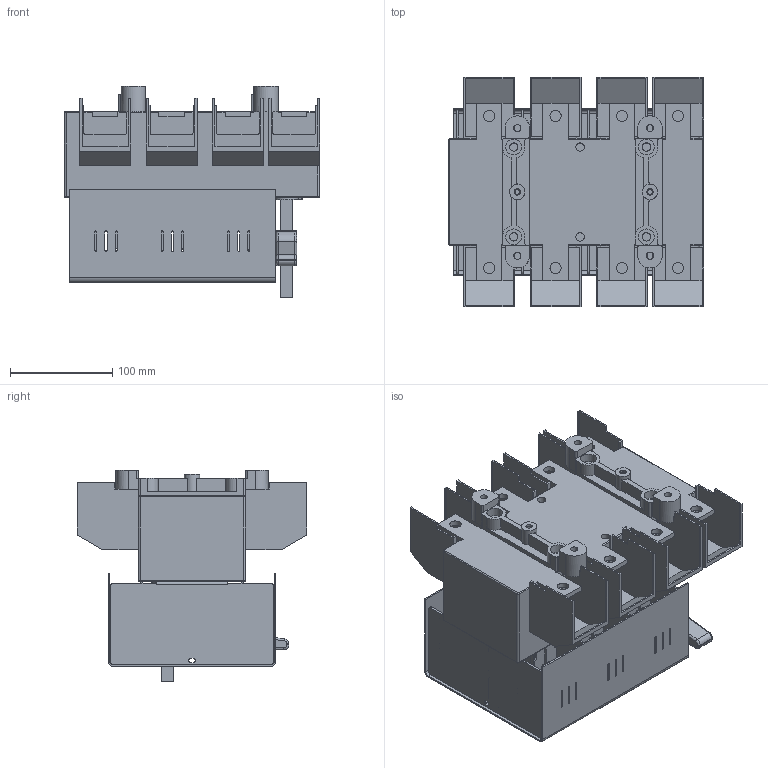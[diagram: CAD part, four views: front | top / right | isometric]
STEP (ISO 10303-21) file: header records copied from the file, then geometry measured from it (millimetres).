
FILE_DESCRIPTION(/* description */ (''),/* implementation_level */ '2;1');
FILE_NAME(/* name */ 'RAB 2 P3 N z oslona zaciskow.stp',/* time_stamp */ '2021-08-19T13:08:06+02:00',/* author */ (''),/* organization */ (''),/* preprocessor_version */ 'ST-DEVELOPER v18.1',/* originating_system */ 'SIEMENS PLM Software NX 1965',/* authorisation */ '');
FILE_SCHEMA (('AUTOMOTIVE_DESIGN { 1 0 10303 214 3 1 1 1 }'));
Length unit declared in the file: millimetre
Products named in the file (1): RAB 1 P3 N z oslona zaciskow
Bounding box: 250 x 225 x 207.3 mm (x, y, z)
Volume: 2690534.1 mm3; surface area: 614375.4 mm2
Topology: 2 solids, 2 shells, 1259 faces, 3577 edges, 2331 vertices
Faces by surface type: plane 862, cylinder 375, bspline 8, torus 8, sphere 6
Full cylindrical faces by diameter (mm): 4.8 x2, 6.2 x2, 7 x4, 8.2 x6, 11 x8, 14 x4, 15 x2, 15.5 x4
Entity records: 40782 total; most frequent: CARTESIAN_POINT 7280, ORIENTED_EDGE 7046, DIRECTION 6833, EDGE_CURVE 3523, LINE 2701, VECTOR 2701, VERTEX_POINT 2312, AXIS2_PLACEMENT_3D 2066
